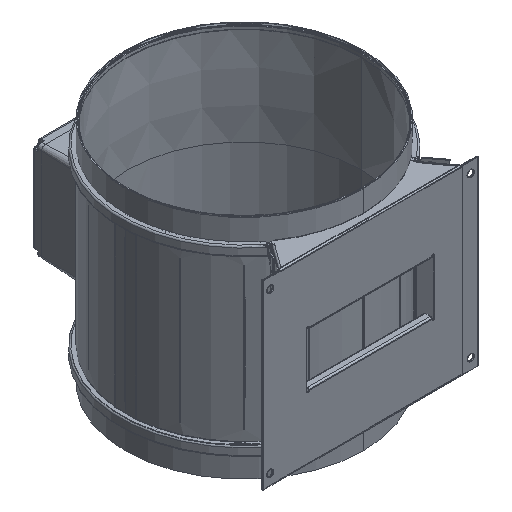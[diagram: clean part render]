
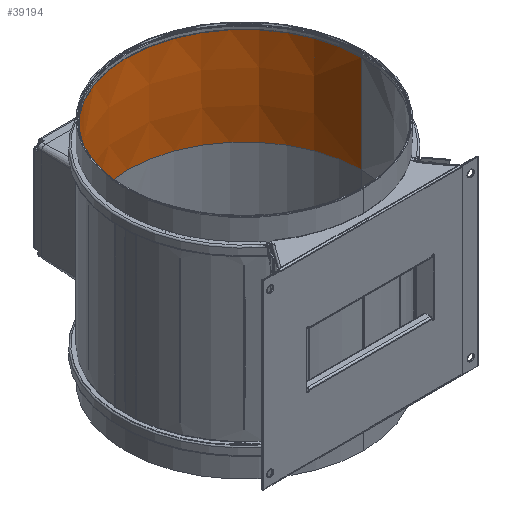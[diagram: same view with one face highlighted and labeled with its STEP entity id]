
A CAD part, isometric view. The second image highlights one B-rep face of the part: STEP entity #39194.
In plain terms, the highlighted conical face has half-angle 0.224 degrees and reference radius 154.4 mm.
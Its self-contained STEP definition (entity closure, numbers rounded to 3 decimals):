
#897 = EDGE_LOOP ( 'NONE', ( #18434, #18425, #18323, #18213 ) ) ;
#3350 = VECTOR ( 'NONE', #14162, 1000. ) ;
#3352 = LINE ( 'NONE', #14189, #3350 ) ;
#4726 = DIRECTION ( 'NONE',  ( -0.004, 0., 1. ) ) ;
#4825 = CARTESIAN_POINT ( 'NONE',  ( -154.4, 0., -92.667 ) ) ;
#4985 = CARTESIAN_POINT ( 'NONE',  ( 0., 0., -220.707 ) ) ;
#4999 = DIRECTION ( 'NONE',  ( 0., 0., 1. ) ) ;
#5031 = DIRECTION ( 'NONE',  ( -1., 0., 0. ) ) ;
#6944 = CARTESIAN_POINT ( 'NONE',  ( 0., 0., -92.862 ) ) ;
#6945 = DIRECTION ( 'NONE',  ( 0., 0., 1. ) ) ;
#6946 = DIRECTION ( 'NONE',  ( -1., 0., 0. ) ) ;
#10486 = VERTEX_POINT ( 'NONE', #25222 ) ;
#10513 = VERTEX_POINT ( 'NONE', #14148 ) ;
#14148 = CARTESIAN_POINT ( 'NONE',  ( 154.399, 0., -92.862 ) ) ;
#14162 = DIRECTION ( 'NONE',  ( 0.004, 0., 1. ) ) ;
#14189 = CARTESIAN_POINT ( 'NONE',  ( 154.4, 0., -92.667 ) ) ;
#17932 = VERTEX_POINT ( 'NONE', #20386 ) ;
#18213 = ORIENTED_EDGE ( 'NONE', *, *, #24643, .F. ) ;
#18219 = VERTEX_POINT ( 'NONE', #22200 ) ;
#18323 = ORIENTED_EDGE ( 'NONE', *, *, #20614, .T. ) ;
#18425 = ORIENTED_EDGE ( 'NONE', *, *, #24795, .T. ) ;
#18434 = ORIENTED_EDGE ( 'NONE', *, *, #24567, .F. ) ;
#20386 = CARTESIAN_POINT ( 'NONE',  ( 153.9, 0., -220.707 ) ) ;
#20495 = CONICAL_SURFACE ( 'NONE', #38746, 154.4, 0.004 ) ;
#20531 = FACE_OUTER_BOUND ( 'NONE', #897, .T. ) ;
#20614 = EDGE_CURVE ( 'NONE', #10513, #18219, #23147, .T. ) ;
#20645 = AXIS2_PLACEMENT_3D ( 'NONE', #6944, #6945, #6946 ) ;
#22200 = CARTESIAN_POINT ( 'NONE',  ( -154.399, 0., -92.862 ) ) ;
#22853 = CIRCLE ( 'NONE', #36548, 153.9 ) ;
#22914 = VECTOR ( 'NONE', #4726, 1000. ) ;
#22915 = LINE ( 'NONE', #4825, #22914 ) ;
#23147 = CIRCLE ( 'NONE', #20645, 154.399 ) ;
#24567 = EDGE_CURVE ( 'NONE', #17932, #10486, #22853, .T. ) ;
#24643 = EDGE_CURVE ( 'NONE', #10486, #18219, #22915, .T. ) ;
#24795 = EDGE_CURVE ( 'NONE', #17932, #10513, #3352, .T. ) ;
#25222 = CARTESIAN_POINT ( 'NONE',  ( -153.9, 0., -220.707 ) ) ;
#36548 = AXIS2_PLACEMENT_3D ( 'NONE', #4985, #4999, #5031 ) ;
#37639 = DIRECTION ( 'NONE',  ( -1., 0., 0. ) ) ;
#37850 = DIRECTION ( 'NONE',  ( 0., 0., 1. ) ) ;
#37874 = CARTESIAN_POINT ( 'NONE',  ( 0., 0., -92.667 ) ) ;
#38746 = AXIS2_PLACEMENT_3D ( 'NONE', #37874, #37850, #37639 ) ;
#39194 = ADVANCED_FACE ( 'NONE', ( #20531 ), #20495, .F. ) ;
